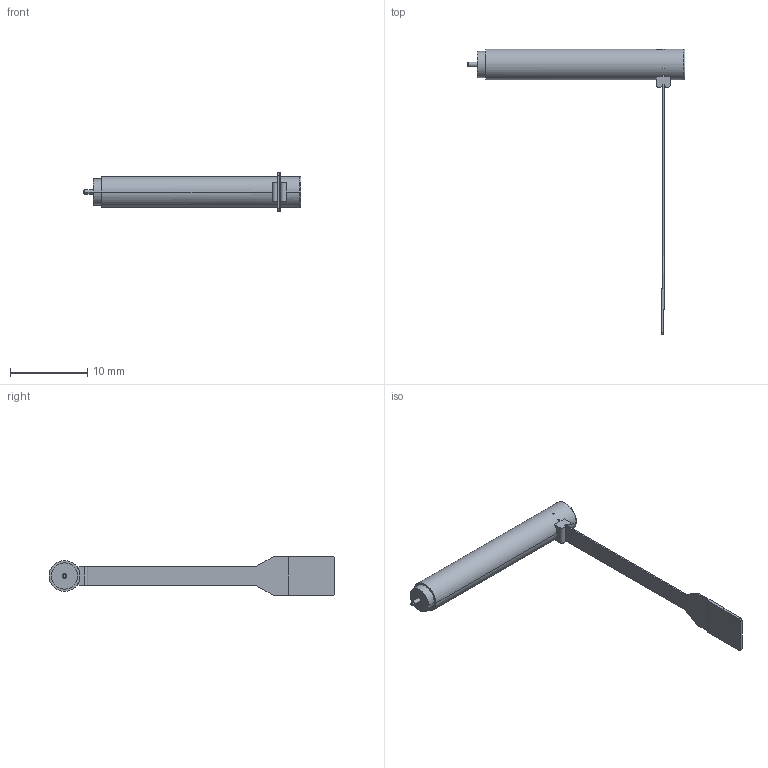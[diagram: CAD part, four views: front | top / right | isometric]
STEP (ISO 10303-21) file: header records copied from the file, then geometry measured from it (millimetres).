
FILE_DESCRIPTION((''),'2;1');
FILE_NAME('414402_EC4_1W_B','2016-10-17T',('mmagpetk'),(''),'CREO PARAMETRIC BY PTC INC, 2016050','CREO PARAMETRIC BY PTC INC, 2016050','');
FILE_SCHEMA(('CONFIG_CONTROL_DESIGN'));
Length unit declared in the file: millimetre
Products named in the file (1): 414402_EC4_1W_B
Bounding box: 28.2 x 37 x 5 mm (x, y, z)
Volume: 361.3 mm3; surface area: 607.1 mm2
Topology: 1 solids, 1 shells, 95 faces, 269 edges, 175 vertices
Faces by surface type: plane 68, cylinder 19, torus 6, cone 2
Entity records: 4709 total; most frequent: CARTESIAN_POINT 539, ORIENTED_EDGE 538, DIRECTION 529, PRESENTATION_STYLE_ASSIGNMENT 365, STYLED_ITEM 270, CURVE_STYLE 269, EDGE_CURVE 269, VECTOR 199
